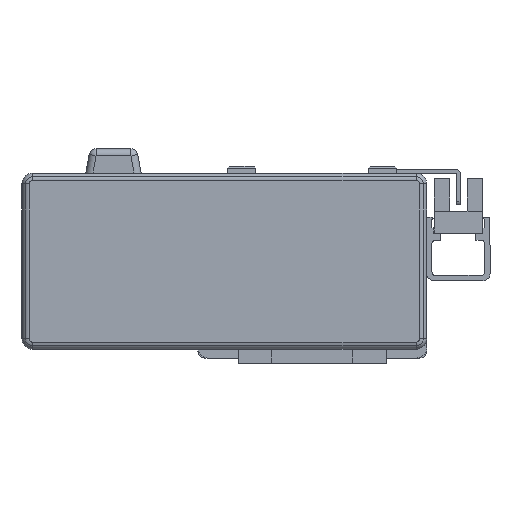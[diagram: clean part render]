
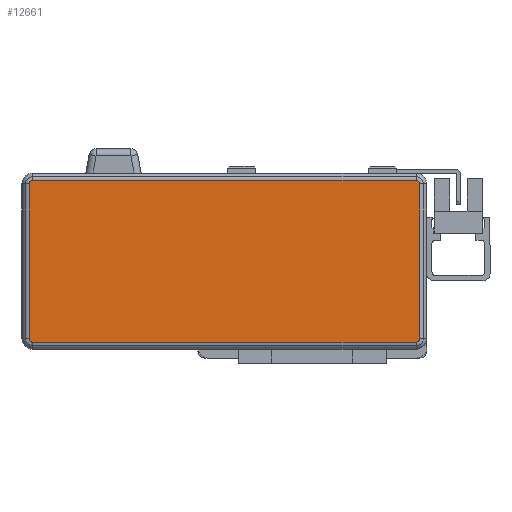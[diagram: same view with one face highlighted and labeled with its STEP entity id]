
A CAD part, left-side view. The second image highlights one B-rep face of the part: STEP entity #12661.
In plain terms, the highlighted planar face has unit normal (-1, 0, 0) as drawn and (0, 0, 1) by its records, which use the part's own axes.
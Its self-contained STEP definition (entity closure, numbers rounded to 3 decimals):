
#276 = VERTEX_POINT ( 'NONE', #5493 ) ;
#382 = DIRECTION ( 'NONE',  ( 0., 0., 1. ) ) ;
#578 = CARTESIAN_POINT ( 'NONE',  ( -54.5, -22., 40. ) ) ;
#1292 = CARTESIAN_POINT ( 'NONE',  ( 54.5, -23., 40. ) ) ;
#1355 = DIRECTION ( 'NONE',  ( -1., 0., 0. ) ) ;
#1735 = EDGE_LOOP ( 'NONE', ( #14467, #14493, #14586, #14621, #14695, #14751, #14776, #14871 ) ) ;
#2065 = CARTESIAN_POINT ( 'NONE',  ( -54.5, -23., 40. ) ) ;
#2880 = DIRECTION ( 'NONE',  ( -1., 0., 0. ) ) ;
#3057 = VECTOR ( 'NONE', #9988, 1000. ) ;
#3322 = CIRCLE ( 'NONE', #9074, 1. ) ;
#3509 = DIRECTION ( 'NONE',  ( 0., 0., 1. ) ) ;
#3578 = CARTESIAN_POINT ( 'NONE',  ( 55.5, -22., 40. ) ) ;
#3655 = CIRCLE ( 'NONE', #9117, 1. ) ;
#3713 = CARTESIAN_POINT ( 'NONE',  ( 0., 23., 40. ) ) ;
#4401 = LINE ( 'NONE', #3713, #15399 ) ;
#4767 = VECTOR ( 'NONE', #24825, 1000. ) ;
#5493 = CARTESIAN_POINT ( 'NONE',  ( -55.5, -22., 40. ) ) ;
#7491 = VECTOR ( 'NONE', #26629, 1000. ) ;
#7561 = LINE ( 'NONE', #12464, #7491 ) ;
#8040 = LINE ( 'NONE', #8398, #4767 ) ;
#8398 = CARTESIAN_POINT ( 'NONE',  ( 55.5, 0., 40. ) ) ;
#9074 = AXIS2_PLACEMENT_3D ( 'NONE', #578, #16547, #2880 ) ;
#9117 = AXIS2_PLACEMENT_3D ( 'NONE', #14173, #382, #16373 ) ;
#9237 = AXIS2_PLACEMENT_3D ( 'NONE', #27004, #15178, #1355 ) ;
#9321 = AXIS2_PLACEMENT_3D ( 'NONE', #17077, #3509, #19033 ) ;
#9684 = VERTEX_POINT ( 'NONE', #16834 ) ;
#9988 = DIRECTION ( 'NONE',  ( 0., -1., 0. ) ) ;
#11080 = CIRCLE ( 'NONE', #9321, 1. ) ;
#11110 = CIRCLE ( 'NONE', #9237, 1. ) ;
#11194 = CARTESIAN_POINT ( 'NONE',  ( 54.5, 23., 40. ) ) ;
#11470 = CARTESIAN_POINT ( 'NONE',  ( 55.5, 22., 40. ) ) ;
#12069 = CARTESIAN_POINT ( 'NONE',  ( -55.5, 0., 40. ) ) ;
#12464 = CARTESIAN_POINT ( 'NONE',  ( 0., -23., 40. ) ) ;
#12557 = DIRECTION ( 'NONE',  ( 0., 0., -1. ) ) ;
#12661 = ADVANCED_FACE ( 'NONE', ( #23750 ), #20760, .F. ) ;
#13024 = VERTEX_POINT ( 'NONE', #27696 ) ;
#14173 = CARTESIAN_POINT ( 'NONE',  ( -54.5, 22., 40. ) ) ;
#14467 = ORIENTED_EDGE ( 'NONE', *, *, #23766, .T. ) ;
#14493 = ORIENTED_EDGE ( 'NONE', *, *, #23836, .T. ) ;
#14586 = ORIENTED_EDGE ( 'NONE', *, *, #23879, .T. ) ;
#14621 = ORIENTED_EDGE ( 'NONE', *, *, #23910, .T. ) ;
#14695 = ORIENTED_EDGE ( 'NONE', *, *, #23942, .T. ) ;
#14751 = ORIENTED_EDGE ( 'NONE', *, *, #24048, .T. ) ;
#14776 = ORIENTED_EDGE ( 'NONE', *, *, #24182, .T. ) ;
#14871 = ORIENTED_EDGE ( 'NONE', *, *, #24188, .T. ) ;
#15178 = DIRECTION ( 'NONE',  ( 0., 0., 1. ) ) ;
#15399 = VECTOR ( 'NONE', #23090, 1000. ) ;
#16373 = DIRECTION ( 'NONE',  ( -1., 0., 0. ) ) ;
#16547 = DIRECTION ( 'NONE',  ( 0., 0., 1. ) ) ;
#16834 = CARTESIAN_POINT ( 'NONE',  ( -55.5, 22., 40. ) ) ;
#17077 = CARTESIAN_POINT ( 'NONE',  ( 54.5, -22., 40. ) ) ;
#17868 = VERTEX_POINT ( 'NONE', #11194 ) ;
#18042 = VERTEX_POINT ( 'NONE', #11470 ) ;
#18532 = LINE ( 'NONE', #12069, #3057 ) ;
#19033 = DIRECTION ( 'NONE',  ( -1., 0., 0. ) ) ;
#20349 = AXIS2_PLACEMENT_3D ( 'NONE', #22598, #12557, #26625 ) ;
#20588 = VERTEX_POINT ( 'NONE', #3578 ) ;
#20760 = PLANE ( 'NONE',  #20349 ) ;
#22598 = CARTESIAN_POINT ( 'NONE',  ( 0., 0., 40. ) ) ;
#23090 = DIRECTION ( 'NONE',  ( -1., 0., 0. ) ) ;
#23230 = VERTEX_POINT ( 'NONE', #1292 ) ;
#23750 = FACE_OUTER_BOUND ( 'NONE', #1735, .T. ) ;
#23766 = EDGE_CURVE ( 'NONE', #26299, #23230, #7561, .T. ) ;
#23836 = EDGE_CURVE ( 'NONE', #23230, #20588, #11080, .T. ) ;
#23879 = EDGE_CURVE ( 'NONE', #20588, #18042, #8040, .T. ) ;
#23910 = EDGE_CURVE ( 'NONE', #18042, #17868, #11110, .T. ) ;
#23942 = EDGE_CURVE ( 'NONE', #17868, #13024, #4401, .T. ) ;
#24048 = EDGE_CURVE ( 'NONE', #13024, #9684, #3655, .T. ) ;
#24182 = EDGE_CURVE ( 'NONE', #9684, #276, #18532, .T. ) ;
#24188 = EDGE_CURVE ( 'NONE', #276, #26299, #3322, .T. ) ;
#24825 = DIRECTION ( 'NONE',  ( 0., 1., 0. ) ) ;
#26299 = VERTEX_POINT ( 'NONE', #2065 ) ;
#26625 = DIRECTION ( 'NONE',  ( -1., 0., 0. ) ) ;
#26629 = DIRECTION ( 'NONE',  ( 1., 0., 0. ) ) ;
#27004 = CARTESIAN_POINT ( 'NONE',  ( 54.5, 22., 40. ) ) ;
#27696 = CARTESIAN_POINT ( 'NONE',  ( -54.5, 23., 40. ) ) ;
